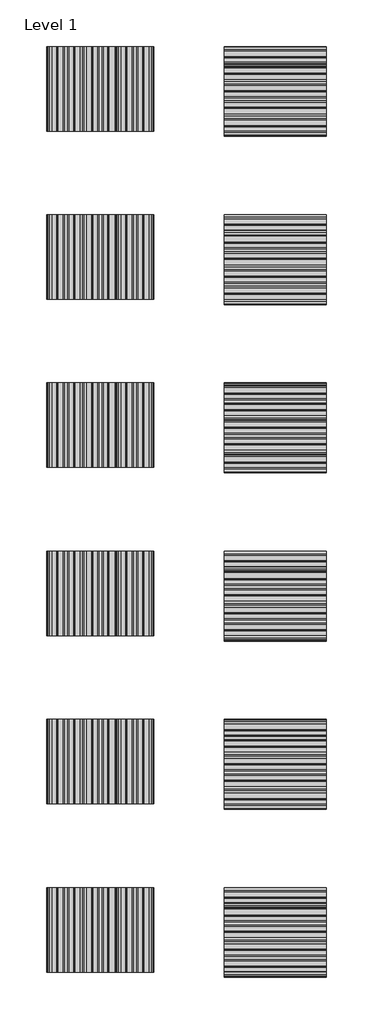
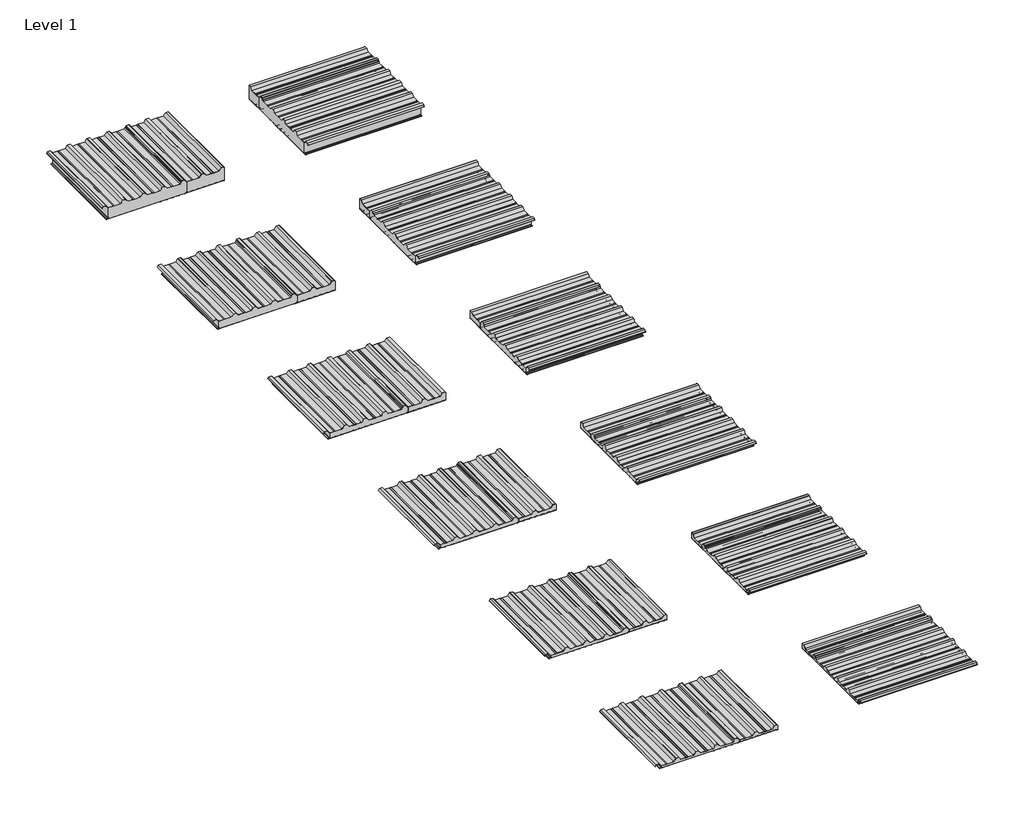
# One storey: 24 plates.
"""IFC4 building model written with IfcOpenShell, lengths in millimetres."""

from ifc_helpers import new_model, si_unit, origin, place, context, project, spatial, transform, mapped, element, save
from components import ew_030mm_7c448985, ew_030mm_0b81b853, ew_040mm_b991c328, ew_040mm_862d915e, ew_050mm_1255d846, ew_050mm_9cfe369e, ew_075mm_fef6cdc1, ew_075mm_3dc5efd1, ew_100mm_d977de08, ew_100mm_a70b9e7b, ew_150mm_34eb2ac0, ew_150mm_8b242ef5, ns_030mm_47f54e74, ns_030mm_3c0a596e, ns_040mm_68479433, ns_040mm_fbca6378, ns_050mm_d5d04edd, ns_050mm_445bacdd, ns_075mm_65611ee8, ns_075mm_1ef12357, ns_100mm_bfbfd920, ns_100mm_57d26f19, ns_150mm_ed0a11b4, ns_150mm_5f833d06

model = new_model("IFC4")

# Units and contexts
model_context = context("Model", 3, world=origin())
ifc_project = project(units=[si_unit("LENGTHUNIT", "METRE", prefix="MILLI")], contexts=[model_context])

# Site, building, storey
site = spatial("IfcSite", under=ifc_project)
building = spatial("IfcBuilding", under=site)
storey = spatial("IfcBuildingStorey", under=building, Name="Level 1", Elevation=2400.0)

# Plates
placement = place(None, origin())
ew_030mm_shape = ew_030mm_7c448985(model_context)
element("IfcPlate", 1, ObjectType="KIP-MEX-KC-R19-CP-EW-SL : EW 030mm", at=placement, inside=storey, context=model_context, shape_type="MappedRepresentation", body=[
    mapped(ew_030mm_shape, transform((-5938.9413836, 1128.2128596, 2400.0), x_axis=(1.0, 0.0, 0.0), y_axis=(0.0, 0.0, -1.0), z_axis=(0.0, 1.0, 0.0))),
])
ew_030mm_2_shape = ew_030mm_0b81b853(model_context)
element("IfcPlate", 2, ObjectType="KIP-MEX-KC-R19-CP-EW-SL : EW 030mm", at=placement, inside=storey, context=model_context, shape_type="MappedRepresentation", body=[
    mapped(ew_030mm_2_shape, transform((-5938.9413836, 2128.2128596, 2400.0), x_axis=(1.0, 0.0, 0.0), y_axis=(0.0, 0.0, -1.0), z_axis=(0.0, 1.0, 0.0))),
])
ew_040mm_shape = ew_040mm_b991c328(model_context)
element("IfcPlate", 3, ObjectType="KIP-MEX-KC-R19-CP-EW-SL : EW 040mm", at=placement, inside=storey, context=model_context, shape_type="MappedRepresentation", body=[
    mapped(ew_040mm_shape, transform((-5938.9413836, 3566.6128596, 2400.0), x_axis=(1.0, 0.0, 0.0), y_axis=(0.0, 0.0, -1.0), z_axis=(0.0, 1.0, 0.0))),
])
ew_040mm_2_shape = ew_040mm_862d915e(model_context)
element("IfcPlate", 4, ObjectType="KIP-MEX-KC-R19-CP-EW-SL : EW 040mm", at=placement, inside=storey, context=model_context, shape_type="MappedRepresentation", body=[
    mapped(ew_040mm_2_shape, transform((-5938.9413836, 4566.6128596, 2400.0), x_axis=(1.0, 0.0, 0.0), y_axis=(0.0, 0.0, -1.0), z_axis=(0.0, 1.0, 0.0))),
])
ew_050mm_shape = ew_050mm_1255d846(model_context)
element("IfcPlate", 5, ObjectType="KIP-MEX-KC-R19-CP-EW-SL : EW 050mm", at=placement, inside=storey, context=model_context, shape_type="MappedRepresentation", body=[
    mapped(ew_050mm_shape, transform((-5938.9413836, 6005.0128596, 2400.0), x_axis=(1.0, 0.0, 0.0), y_axis=(0.0, 0.0, -1.0), z_axis=(0.0, 1.0, 0.0))),
])
ew_050mm_2_shape = ew_050mm_9cfe369e(model_context)
element("IfcPlate", 6, ObjectType="KIP-MEX-KC-R19-CP-EW-SL : EW 050mm", at=placement, inside=storey, context=model_context, shape_type="MappedRepresentation", body=[
    mapped(ew_050mm_2_shape, transform((-5938.9413836, 7005.0128596, 2400.0), x_axis=(1.0, 0.0, 0.0), y_axis=(0.0, 0.0, -1.0), z_axis=(0.0, 1.0, 0.0))),
])
ew_075mm_shape = ew_075mm_fef6cdc1(model_context)
element("IfcPlate", 7, ObjectType="KIP-MEX-KC-R19-CP-EW-SL : EW 075mm", at=placement, inside=storey, context=model_context, shape_type="MappedRepresentation", body=[
    mapped(ew_075mm_shape, transform((-5938.9413836, 8443.4128596, 2400.0), x_axis=(1.0, 0.0, 0.0), y_axis=(0.0, 0.0, -1.0), z_axis=(0.0, 1.0, 0.0))),
])
ew_075mm_2_shape = ew_075mm_3dc5efd1(model_context)
element("IfcPlate", 8, ObjectType="KIP-MEX-KC-R19-CP-EW-SL : EW 075mm", at=placement, inside=storey, context=model_context, shape_type="MappedRepresentation", body=[
    mapped(ew_075mm_2_shape, transform((-5938.9413836, 9443.4128596, 2400.0), x_axis=(1.0, 0.0, 0.0), y_axis=(0.0, 0.0, -1.0), z_axis=(0.0, 1.0, 0.0))),
])
ew_100mm_shape = ew_100mm_d977de08(model_context)
element("IfcPlate", 9, ObjectType="KIP-MEX-KC-R19-CP-EW-SL : EW 100mm", at=placement, inside=storey, context=model_context, shape_type="MappedRepresentation", body=[
    mapped(ew_100mm_shape, transform((-5938.9413836, 10881.8128596, 2400.0), x_axis=(1.0, 0.0, 0.0), y_axis=(0.0, 0.0, -1.0), z_axis=(0.0, 1.0, 0.0))),
])
ew_100mm_2_shape = ew_100mm_a70b9e7b(model_context)
element("IfcPlate", 10, ObjectType="KIP-MEX-KC-R19-CP-EW-SL : EW 100mm", at=placement, inside=storey, context=model_context, shape_type="MappedRepresentation", body=[
    mapped(ew_100mm_2_shape, transform((-5938.9413836, 11881.8128596, 2400.0), x_axis=(1.0, 0.0, 0.0), y_axis=(0.0, 0.0, -1.0), z_axis=(0.0, 1.0, 0.0))),
])
ew_150mm_shape = ew_150mm_34eb2ac0(model_context)
element("IfcPlate", 11, ObjectType="KIP-MEX-KC-R19-CP-EW-SL : EW 150mm", at=placement, inside=storey, context=model_context, shape_type="MappedRepresentation", body=[
    mapped(ew_150mm_shape, transform((-5938.9413836, 13320.2128596, 2400.0), x_axis=(1.0, 0.0, 0.0), y_axis=(0.0, 0.0, -1.0), z_axis=(0.0, 1.0, 0.0))),
])
ew_150mm_2_shape = ew_150mm_8b242ef5(model_context)
element("IfcPlate", 12, ObjectType="KIP-MEX-KC-R19-CP-EW-SL : EW 150mm", at=placement, inside=storey, context=model_context, shape_type="MappedRepresentation", body=[
    mapped(ew_150mm_2_shape, transform((-5938.9413836, 14320.2128596, 2400.0), x_axis=(1.0, 0.0, 0.0), y_axis=(0.0, 0.0, -1.0), z_axis=(0.0, 1.0, 0.0))),
])
ns_030mm_shape = ns_030mm_47f54e74(model_context)
element("IfcPlate", 13, ObjectType="KIP-MEX-KC-R19-CP-NS-SL : NS 030mm", at=placement, inside=storey, context=model_context, shape_type="MappedRepresentation", body=[
    mapped(ns_030mm_shape, transform((-8678.7250934, 1128.2128596, 2400.0), x_axis=(1.0, 0.0, 0.0), y_axis=(0.0, 0.0, -1.0), z_axis=(0.0, 1.0, 0.0))),
])
ns_030mm_2_shape = ns_030mm_3c0a596e(model_context)
element("IfcPlate", 14, ObjectType="KIP-MEX-KC-R19-CP-NS-SL : NS 030mm", at=placement, inside=storey, context=model_context, shape_type="MappedRepresentation", body=[
    mapped(ns_030mm_2_shape, transform((-7938.7250934, 1128.2128596, 2400.0), x_axis=(1.0, 0.0, 0.0), y_axis=(0.0, 0.0, -1.0), z_axis=(0.0, 1.0, 0.0))),
])
ns_040mm_shape = ns_040mm_68479433(model_context)
element("IfcPlate", 15, ObjectType="KIP-MEX-KC-R19-CP-NS-SL : NS 040mm", at=placement, inside=storey, context=model_context, shape_type="MappedRepresentation", body=[
    mapped(ns_040mm_shape, transform((-8678.7250934, 3566.6128596, 2400.0), x_axis=(1.0, 0.0, 0.0), y_axis=(0.0, 0.0, -1.0), z_axis=(0.0, 1.0, 0.0))),
])
ns_040mm_2_shape = ns_040mm_fbca6378(model_context)
element("IfcPlate", 16, ObjectType="KIP-MEX-KC-R19-CP-NS-SL : NS 040mm", at=placement, inside=storey, context=model_context, shape_type="MappedRepresentation", body=[
    mapped(ns_040mm_2_shape, transform((-7938.7250934, 3566.6128596, 2400.0), x_axis=(1.0, 0.0, 0.0), y_axis=(0.0, 0.0, -1.0), z_axis=(0.0, 1.0, 0.0))),
])
ns_050mm_shape = ns_050mm_d5d04edd(model_context)
element("IfcPlate", 17, ObjectType="KIP-MEX-KC-R19-CP-NS-SL : NS 050mm", at=placement, inside=storey, context=model_context, shape_type="MappedRepresentation", body=[
    mapped(ns_050mm_shape, transform((-8678.7250934, 6005.0128596, 2400.0), x_axis=(1.0, 0.0, 0.0), y_axis=(0.0, 0.0, -1.0), z_axis=(0.0, 1.0, 0.0))),
])
ns_050mm_2_shape = ns_050mm_445bacdd(model_context)
element("IfcPlate", 18, ObjectType="KIP-MEX-KC-R19-CP-NS-SL : NS 050mm", at=placement, inside=storey, context=model_context, shape_type="MappedRepresentation", body=[
    mapped(ns_050mm_2_shape, transform((-7938.7250934, 6005.0128596, 2400.0), x_axis=(1.0, 0.0, 0.0), y_axis=(0.0, 0.0, -1.0), z_axis=(0.0, 1.0, 0.0))),
])
ns_075mm_shape = ns_075mm_65611ee8(model_context)
element("IfcPlate", 19, ObjectType="KIP-MEX-KC-R19-CP-NS-SL : NS 075mm", at=placement, inside=storey, context=model_context, shape_type="MappedRepresentation", body=[
    mapped(ns_075mm_shape, transform((-8678.7250934, 8443.4128596, 2400.0), x_axis=(1.0, 0.0, 0.0), y_axis=(0.0, 0.0, -1.0), z_axis=(0.0, 1.0, 0.0))),
])
ns_075mm_2_shape = ns_075mm_1ef12357(model_context)
element("IfcPlate", 20, ObjectType="KIP-MEX-KC-R19-CP-NS-SL : NS 075mm", at=placement, inside=storey, context=model_context, shape_type="MappedRepresentation", body=[
    mapped(ns_075mm_2_shape, transform((-7938.7250934, 8443.4128596, 2400.0), x_axis=(1.0, 0.0, 0.0), y_axis=(0.0, 0.0, -1.0), z_axis=(0.0, 1.0, 0.0))),
])
ns_100mm_shape = ns_100mm_bfbfd920(model_context)
element("IfcPlate", 21, ObjectType="KIP-MEX-KC-R19-CP-NS-SL : NS 100mm", at=placement, inside=storey, context=model_context, shape_type="MappedRepresentation", body=[
    mapped(ns_100mm_shape, transform((-8678.7250934, 10881.8128596, 2400.0), x_axis=(1.0, 0.0, 0.0), y_axis=(0.0, 0.0, -1.0), z_axis=(0.0, 1.0, 0.0))),
])
ns_100mm_2_shape = ns_100mm_57d26f19(model_context)
element("IfcPlate", 22, ObjectType="KIP-MEX-KC-R19-CP-NS-SL : NS 100mm", at=placement, inside=storey, context=model_context, shape_type="MappedRepresentation", body=[
    mapped(ns_100mm_2_shape, transform((-7938.7250934, 10881.8128596, 2400.0), x_axis=(1.0, 0.0, 0.0), y_axis=(0.0, 0.0, -1.0), z_axis=(0.0, 1.0, 0.0))),
])
ns_150mm_shape = ns_150mm_ed0a11b4(model_context)
element("IfcPlate", 23, ObjectType="KIP-MEX-KC-R19-CP-NS-SL : NS 150mm", at=placement, inside=storey, context=model_context, shape_type="MappedRepresentation", body=[
    mapped(ns_150mm_shape, transform((-8678.7250934, 13320.2128596, 2400.0), x_axis=(1.0, 0.0, 0.0), y_axis=(0.0, 0.0, -1.0), z_axis=(0.0, 1.0, 0.0))),
])
ns_150mm_2_shape = ns_150mm_5f833d06(model_context)
element("IfcPlate", 24, ObjectType="KIP-MEX-KC-R19-CP-NS-SL : NS 150mm", at=placement, inside=storey, context=model_context, shape_type="MappedRepresentation", body=[
    mapped(ns_150mm_2_shape, transform((-7938.7250934, 13320.2128596, 2400.0), x_axis=(1.0, 0.0, 0.0), y_axis=(0.0, 0.0, -1.0), z_axis=(0.0, 1.0, 0.0))),
])

save(model, "model.ifc")
